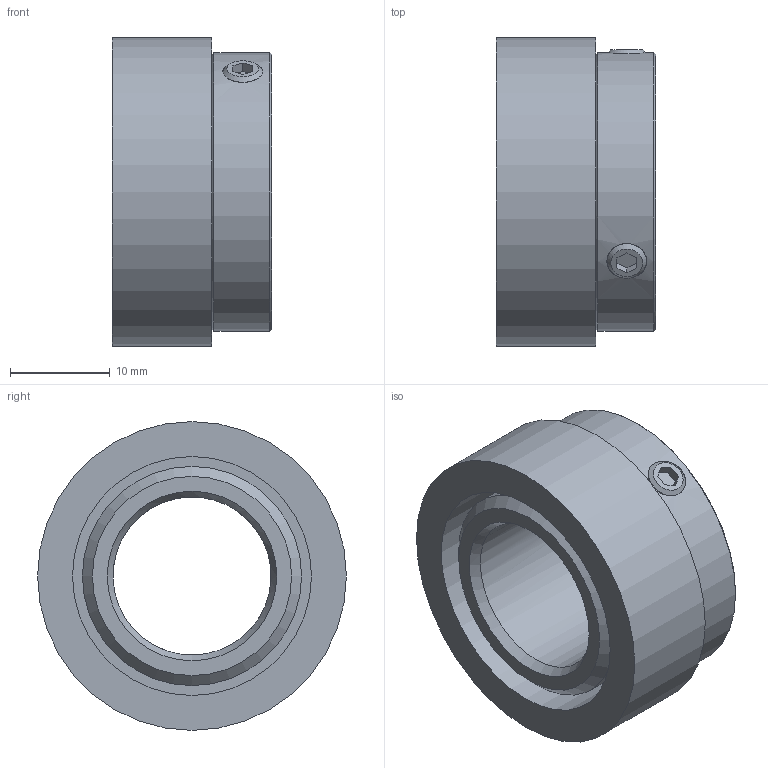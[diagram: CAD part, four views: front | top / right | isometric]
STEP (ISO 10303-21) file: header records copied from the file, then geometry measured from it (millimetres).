
FILE_DESCRIPTION (( 'STEP AP203' ), '1' );
FILE_NAME ('8.RI20.031.1587.111.STEP', '2013-07-30T11:32:46', ( 'Hodot' ), ( '' ), 'SwSTEP 2.0', 'SolidWorks 2012', '' );
FILE_SCHEMA (( 'CONFIG_CONTROL_DESIGN' ));
Length unit declared in the file: millimetre
Products named in the file (1): 8.RI20.031.1587.111
Bounding box: 16 x 31 x 31 mm (x, y, z)
Volume: 7129.3 mm3; surface area: 5341.3 mm2
Topology: 4 solids, 4 shells, 49 faces, 107 edges, 70 vertices
Faces by surface type: plane 26, cylinder 15, cone 8
Full cylindrical faces by diameter (mm): 2.5 x2, 4 x4, 15.875 x1, 22 x1, 24 x1, 28 x1, 31 x1
Entity records: 1469 total; most frequent: CARTESIAN_POINT 424, DIRECTION 200, ORIENTED_EDGE 160, AXIS2_PLACEMENT_3D 82, EDGE_CURVE 80, EDGE_LOOP 80, VERTEX_POINT 62, FACE_OUTER_BOUND 60
